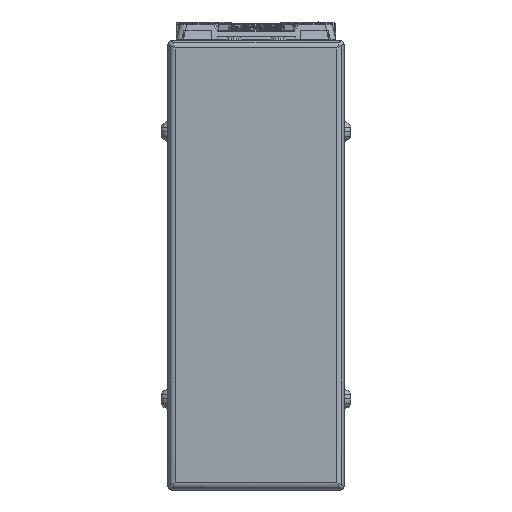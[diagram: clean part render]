
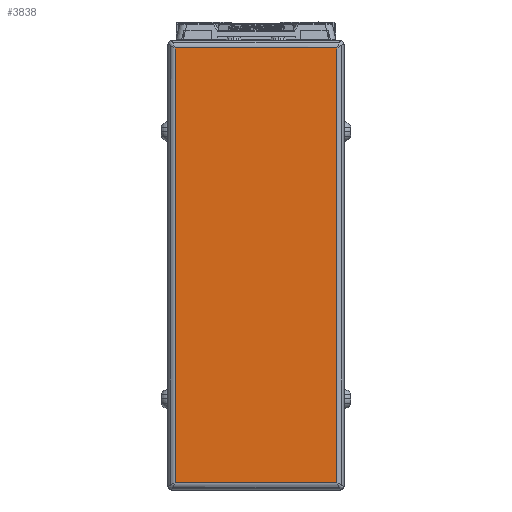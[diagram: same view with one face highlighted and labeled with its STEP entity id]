
A CAD part, left-side view. The second image highlights one B-rep face of the part: STEP entity #3838.
In plain terms, the highlighted planar face has unit normal (-1, 0, 0).
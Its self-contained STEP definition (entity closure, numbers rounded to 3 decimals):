
#3838=ADVANCED_FACE('',(#8463),#8464,.T.);
#8463=FACE_OUTER_BOUND('',#15742,.T.);
#8464=PLANE('',#15743);
#15742=EDGE_LOOP('',(#27987,#27988,#27989,#27990));
#15743=AXIS2_PLACEMENT_3D('',#27991,#27992,#27993);
#27987=ORIENTED_EDGE('',*,*,#39714,.F.);
#27988=ORIENTED_EDGE('',*,*,#39135,.F.);
#27989=ORIENTED_EDGE('',*,*,#37183,.F.);
#27990=ORIENTED_EDGE('',*,*,#39715,.F.);
#27991=CARTESIAN_POINT('',(-48.,0.,-42.5));
#27992=DIRECTION('',(-1.0,0.,0.));
#27993=DIRECTION('',(0.,0.,1.0));
#37183=EDGE_CURVE('',#44776,#44778,#44779,.T.);
#39135=EDGE_CURVE('',#44778,#43519,#47751,.T.);
#39714=EDGE_CURVE('',#43519,#47760,#48513,.T.);
#39715=EDGE_CURVE('',#47760,#44776,#48514,.T.);
#43519=VERTEX_POINT('',#53754);
#44776=VERTEX_POINT('',#55455);
#44778=VERTEX_POINT('',#55457);
#44779=LINE('',#55458,#55459);
#47751=LINE('',#59697,#59698);
#47760=VERTEX_POINT('',#59707);
#48513=LINE('',#60770,#60771);
#48514=LINE('',#60772,#60773);
#53754=CARTESIAN_POINT('',(-48.,21.7,16.));
#55455=CARTESIAN_POINT('',(-48.,-21.7,-101.0));
#55457=CARTESIAN_POINT('',(-48.,21.7,-101.0));
#55458=CARTESIAN_POINT('',(-48.,0.,-101.0));
#55459=VECTOR('',#66309,10.0);
#59697=CARTESIAN_POINT('',(-48.,21.7,-42.5));
#59698=VECTOR('',#68909,10.0);
#59707=CARTESIAN_POINT('',(-48.,-21.7,16.));
#60770=CARTESIAN_POINT('',(-48.,0.,16.));
#60771=VECTOR('',#69592,10.0);
#60772=CARTESIAN_POINT('',(-48.,-21.7,-42.5));
#60773=VECTOR('',#69593,10.0);
#66309=DIRECTION('',(0.,1.0,0.));
#68909=DIRECTION('',(0.,0.,1.0));
#69592=DIRECTION('',(0.,-1.0,0.));
#69593=DIRECTION('',(0.,0.,-1.0));
